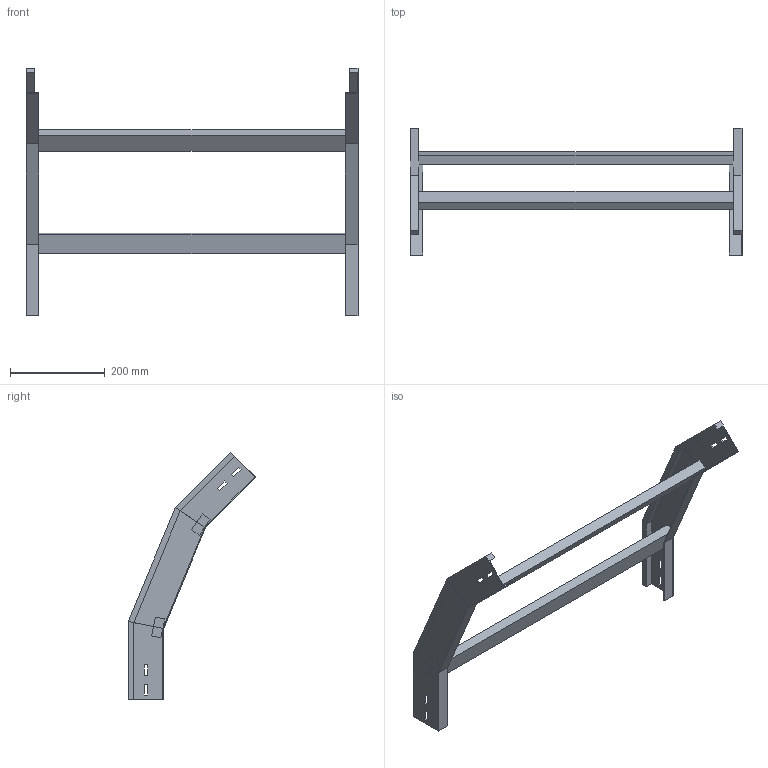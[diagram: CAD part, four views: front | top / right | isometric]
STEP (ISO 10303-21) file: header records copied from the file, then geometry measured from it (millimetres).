
FILE_DESCRIPTION (( 'STEP AP214' ), '1' );
FILE_NAME ('A2_34B3C700.step', '2025-02-21T14:55:08', ( '' ), ( '' ), 'SwSTEP 2.0', 'SolidWorks 2023', '' );
FILE_SCHEMA (( 'AUTOMOTIVE_DESIGN' ));
Length unit declared in the file: millimetre
Products named in the file (3): A2_34B3C700; LONGH.DISCESA_45°_H75_R300; TRAVERSINO_700
Assembly tree (5 placements, depth 2):
  A2_34B3C700
    LONGH.DISCESA_45°_H75_R300  x2
    TRAVERSINO_700  x3
Bounding box: 700 x 269.08 x 521.59 mm (x, y, z)
Volume: 2134448.1 mm3; surface area: 520482.9 mm2
Topology: 5 solids, 5 shells, 102 faces, 244 edges, 152 vertices
Faces by surface type: plane 102
Entity records: 1480 total; most frequent: CARTESIAN_POINT 244, ORIENTED_EDGE 232, DIRECTION 228, VECTOR 116, EDGE_CURVE 116, LINE 116, VERTEX_POINT 72, EDGE_LOOP 56
